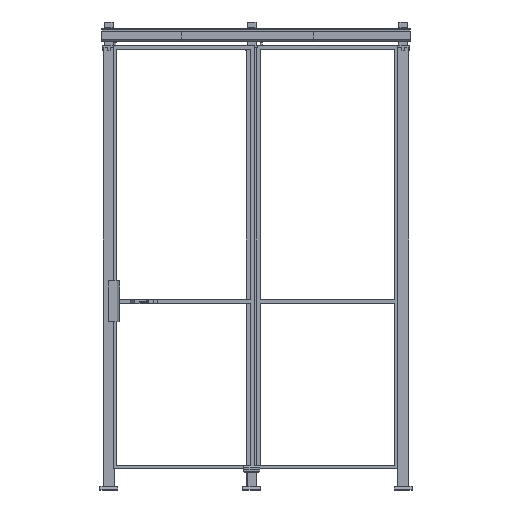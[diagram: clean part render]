
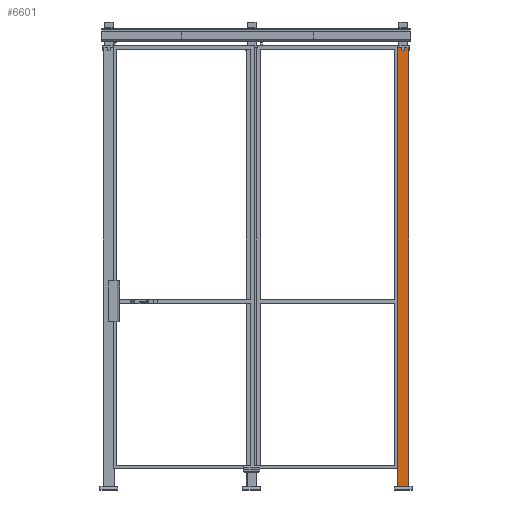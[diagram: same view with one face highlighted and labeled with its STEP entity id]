
A CAD part, front view. The second image highlights one B-rep face of the part: STEP entity #6601.
In plain terms, the highlighted planar face has unit normal (0, -1, 0).
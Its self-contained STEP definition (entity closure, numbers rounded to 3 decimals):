
#704=FACE_OUTER_BOUND('',#1039,.T.);
#1039=EDGE_LOOP('',(#4898,#4899,#4900,#4901));
#1547=LINE('',#9770,#2387);
#1549=LINE('',#9776,#2389);
#1552=LINE('',#9781,#2392);
#1553=LINE('',#9782,#2393);
#2387=VECTOR('',#7779,1.);
#2389=VECTOR('',#7783,1.);
#2392=VECTOR('',#7788,1.);
#2393=VECTOR('',#7789,1.);
#3106=VERTEX_POINT('',#9763);
#3109=VERTEX_POINT('',#9768);
#3111=VERTEX_POINT('',#9773);
#3112=VERTEX_POINT('',#9775);
#3811=EDGE_CURVE('',#3109,#3106,#1547,.T.);
#3813=EDGE_CURVE('',#3111,#3112,#1549,.T.);
#3816=EDGE_CURVE('',#3109,#3112,#1552,.T.);
#3817=EDGE_CURVE('',#3106,#3111,#1553,.T.);
#4898=ORIENTED_EDGE('',*,*,#3816,.T.);
#4899=ORIENTED_EDGE('',*,*,#3813,.F.);
#4900=ORIENTED_EDGE('',*,*,#3817,.F.);
#4901=ORIENTED_EDGE('',*,*,#3811,.F.);
#6307=PLANE('',#6979);
#6601=ADVANCED_FACE('',(#704),#6307,.F.);
#6979=AXIS2_PLACEMENT_3D('',#9780,#7786,#7787);
#7779=DIRECTION('',(1.,0.,0.));
#7783=DIRECTION('',(-1.,0.,0.));
#7786=DIRECTION('center_axis',(0.,1.,0.));
#7787=DIRECTION('ref_axis',(0.,0.,1.));
#7788=DIRECTION('',(0.,0.,-1.));
#7789=DIRECTION('',(0.,0.,-1.));
#9763=CARTESIAN_POINT('',(30.,-30.,2520.));
#9768=CARTESIAN_POINT('',(-30.,-30.,2520.));
#9770=CARTESIAN_POINT('',(0.,-30.,2520.));
#9773=CARTESIAN_POINT('',(30.,-30.,20.));
#9775=CARTESIAN_POINT('',(-30.,-30.,20.));
#9776=CARTESIAN_POINT('',(0.,-30.,20.));
#9780=CARTESIAN_POINT('Origin',(0.,-30.,
1270.));
#9781=CARTESIAN_POINT('',(-30.,-30.,1270.));
#9782=CARTESIAN_POINT('',(30.,-30.,1270.));
